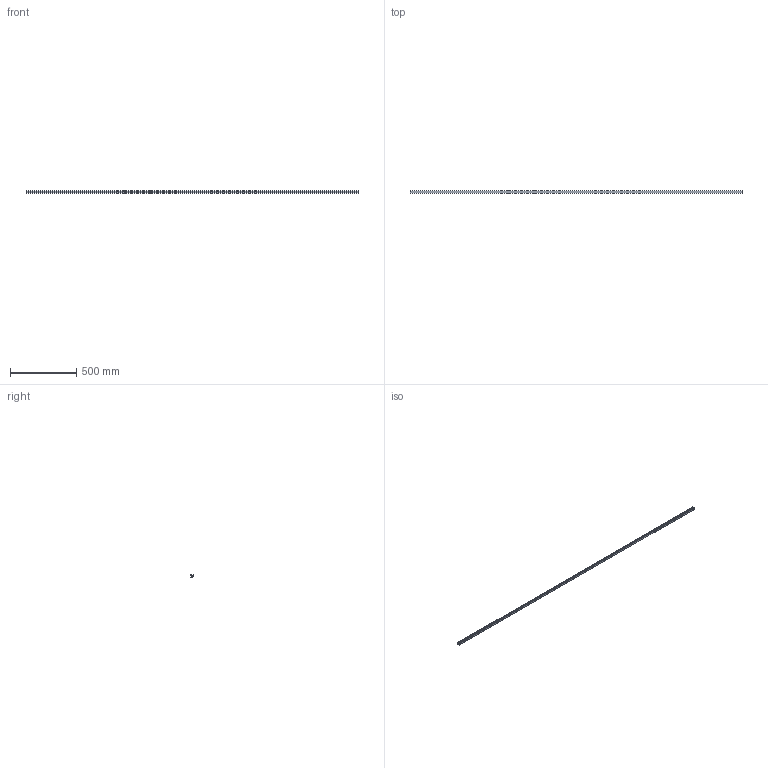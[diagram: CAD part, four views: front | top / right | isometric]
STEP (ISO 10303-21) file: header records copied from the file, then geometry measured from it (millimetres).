
FILE_DESCRIPTION(/* description */ (''),/* implementation_level */ '2;1');
FILE_NAME(/* name */ '1700792_Alu-Quattro_Mini_Profil_sldprt.stp',/* time_stamp */ '2019-06-11T13:34:04+02:00',/* author */ (''),/* organization */ (''),/* preprocessor_version */ 'ST-DEVELOPER v16.7',/* originating_system */ 'SIEMENS PLM Software NX 12.0',/* authorisation */ '');
FILE_SCHEMA (('AUTOMOTIVE_DESIGN { 1 0 10303 214 3 1 1 1 }'));
Length unit declared in the file: millimetre
Products named in the file (1): p.sc21B4B528x4qe
Bounding box: 2500 x 16 x 16 mm (x, y, z)
Volume: 233070.8 mm3; surface area: 368514.9 mm2
Topology: 2 solids, 2 shells, 62 faces, 174 edges, 116 vertices
Faces by surface type: plane 40, cylinder 22
Entity records: 2043 total; most frequent: CARTESIAN_POINT 353, ORIENTED_EDGE 348, DIRECTION 344, EDGE_CURVE 174, LINE 130, VECTOR 130, VERTEX_POINT 116, AXIS2_PLACEMENT_3D 107
